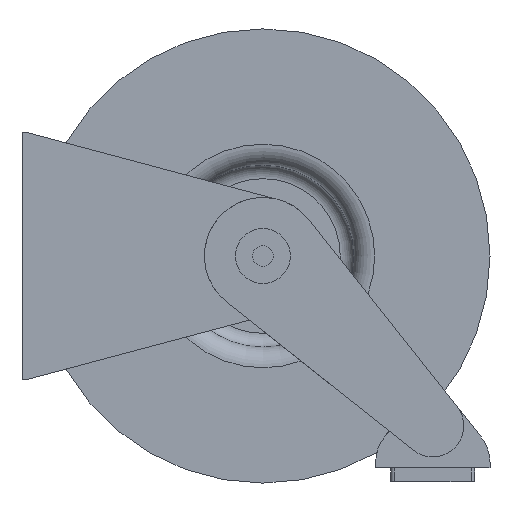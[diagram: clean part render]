
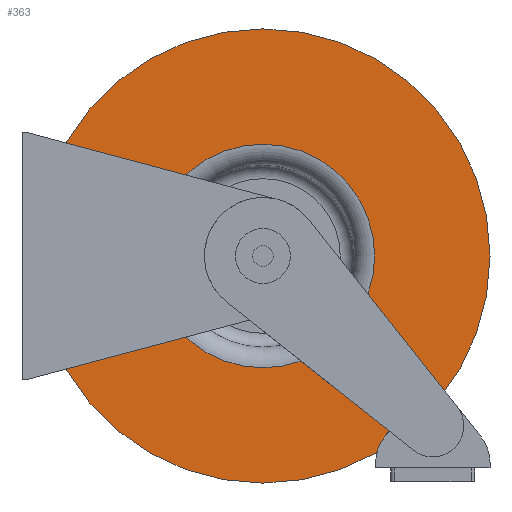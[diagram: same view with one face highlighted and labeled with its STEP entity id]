
A CAD part, front view. The second image highlights one B-rep face of the part: STEP entity #363.
In plain terms, the highlighted planar face has unit normal (0, -1, 0).
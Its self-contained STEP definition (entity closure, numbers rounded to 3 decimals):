
#363 = ADVANCED_FACE( '', ( #778, #779 ), #780, .T. );
#778 = FACE_OUTER_BOUND( '', #1197, .T. );
#779 = FACE_BOUND( '', #1198, .T. );
#780 = PLANE( '', #1199 );
#1197 = EDGE_LOOP( '', ( #2149 ) );
#1198 = EDGE_LOOP( '', ( #2150 ) );
#1199 = AXIS2_PLACEMENT_3D( '', #2151, #2152, #2153 );
#2149 = ORIENTED_EDGE( '', *, *, #2541, .T. );
#2150 = ORIENTED_EDGE( '', *, *, #2359, .F. );
#2151 = CARTESIAN_POINT( '', ( 0., -82.55, 103.124 ) );
#2152 = DIRECTION( '', ( 0., -1., 0. ) );
#2153 = DIRECTION( '', ( 0., 0., -1. ) );
#2359 = EDGE_CURVE( '', #2831, #2831, #2832, .T. );
#2541 = EDGE_CURVE( '', #3085, #3085, #3086, .T. );
#2831 = VERTEX_POINT( '', #3467 );
#2832 = CIRCLE( '', #3468, 103.124 );
#3085 = VERTEX_POINT( '', #3796 );
#3086 = CIRCLE( '', #3797, 209.55 );
#3467 = CARTESIAN_POINT( '', ( 0., -82.55, -103.124 ) );
#3468 = AXIS2_PLACEMENT_3D( '', #4020, #4021, #4022 );
#3796 = CARTESIAN_POINT( '', ( 0., -82.55, -209.55 ) );
#3797 = AXIS2_PLACEMENT_3D( '', #4239, #4240, #4241 );
#4020 = CARTESIAN_POINT( '', ( 0., -82.55, 0. ) );
#4021 = DIRECTION( '', ( 0., -1., 0. ) );
#4022 = DIRECTION( '', ( 0., 0., -1. ) );
#4239 = CARTESIAN_POINT( '', ( 0., -82.55, 0. ) );
#4240 = DIRECTION( '', ( 0., -1., 0. ) );
#4241 = DIRECTION( '', ( 0., 0., -1. ) );
